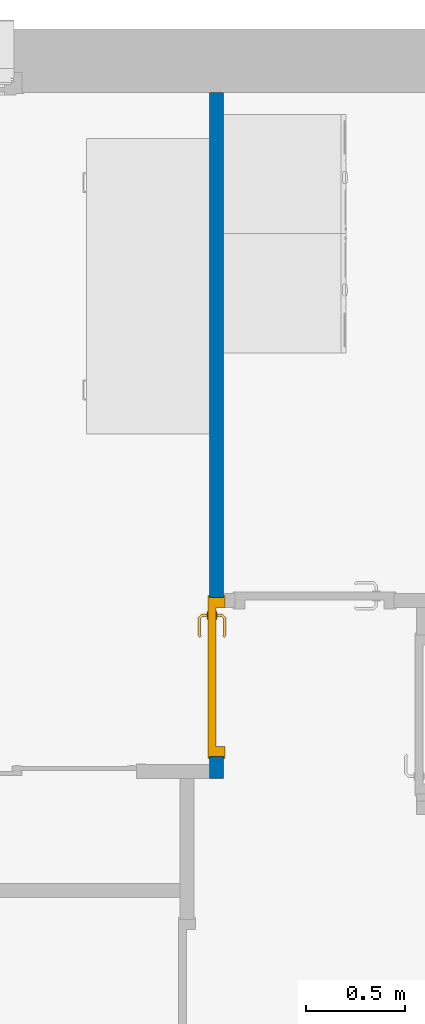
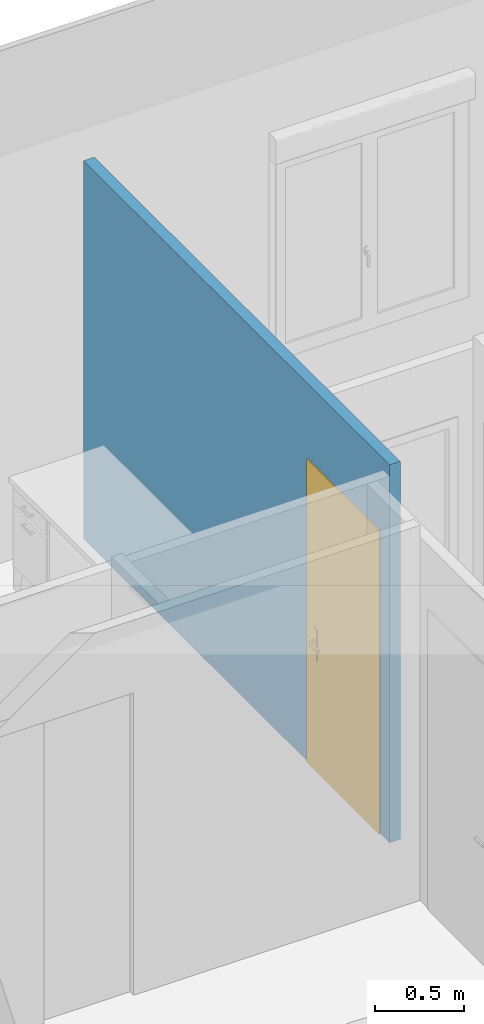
# One storey, part 33 of 50: 1 door, 1 wall, 1 opening.
"""IFC2X3 building model written with IfcOpenShell, lengths in metres."""

from ifc_helpers import new_model, entity, si_unit, converted_unit, derived_unit, direction, frame, frame_2d, origin, place, context, subcontext, project, spatial, rectangle, extrude, faceted_brep, source, transform, mapped, material, material_list, layer, layer_set, layer_usage, type_object, type_shapes, element, fill, save


model = new_model("IFC2X3")

# Units and contexts
model_context = context("Model", 3, precision=1e-05, world=origin(), true_north=direction((6.12303176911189e-17, 1.0)))
context_of_model = context(None, 3, precision=1e-05, world=origin(), true_north=direction((6.12303176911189e-17, 1.0)))
body_context = subcontext(model_context, "Body", "Model", "MODEL_VIEW")
ifc_project = project(units=[si_unit("LENGTHUNIT", "METRE"), si_unit("AREAUNIT", "SQUARE_METRE"), si_unit("VOLUMEUNIT", "CUBIC_METRE"), converted_unit("PLANEANGLEUNIT", "DEGREE", entity("IfcRatioMeasure", 0.0174532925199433), si_unit("PLANEANGLEUNIT", "RADIAN"), dimensions=[0, 0, 0, 0, 0, 0, 0]), si_unit("MASSUNIT", "GRAM", prefix="KILO"), si_unit("TIMEUNIT", "SECOND"), si_unit("FREQUENCYUNIT", "HERTZ"), si_unit("THERMODYNAMICTEMPERATUREUNIT", "DEGREE_CELSIUS"), derived_unit("THERMALTRANSMITTANCEUNIT", [(si_unit("MASSUNIT", "GRAM", prefix="KILO"), 1), (si_unit("THERMODYNAMICTEMPERATUREUNIT", "KELVIN"), -1), (si_unit("TIMEUNIT", "SECOND"), -3)]), derived_unit("VOLUMETRICFLOWRATEUNIT", [(si_unit("LENGTHUNIT", "METRE"), 3), (si_unit("TIMEUNIT", "SECOND"), -1)]), si_unit("ELECTRICCURRENTUNIT", "AMPERE"), si_unit("ELECTRICVOLTAGEUNIT", "VOLT"), si_unit("POWERUNIT", "WATT"), si_unit("FORCEUNIT", "NEWTON", prefix="KILO"), si_unit("ILLUMINANCEUNIT", "LUX"), si_unit("LUMINOUSFLUXUNIT", "LUMEN"), si_unit("LUMINOUSINTENSITYUNIT", "CANDELA"), si_unit("PRESSUREUNIT", "PASCAL")], contexts=[model_context, context_of_model])

# Site, building, storey
site_placement = place(None, origin())
site = spatial("IfcSite", under=ifc_project, at=site_placement, Name="Surface", CompositionType="ELEMENT")
building_placement = place(site_placement, origin())
building = spatial("IfcBuilding", under=site, at=building_placement, CompositionType="ELEMENT")
storey_placement = place(building_placement, frame((0.0, 0.0, 2.82)))
storey = spatial("IfcBuildingStorey", under=building, at=storey_placement, Name="ETAGE", CompositionType="ELEMENT", Elevation=2.82)

# Wall, opening, door
ifc_material_1 = material(Name="Peinture - Blanc")
ifc_layer = layer(ifc_material_1, 0.07)
ifc_layer_set = layer_set([ifc_layer], Name="Mur de base:Int.  Platre 70 mm en blanc")
ifc_layer_usage = layer_usage(ifc_layer_set, "AXIS2", "POSITIVE", -0.035)
wall_type = type_object("IfcWallType", Name="Mur de base:Int.  Platre 70 mm en blanc", PredefinedType="STANDARD", material=ifc_layer_set)
wall_placement = place(storey_placement, frame((79.9439023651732, 92.1475239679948, 0.0), z_axis=(0.0, 0.0, 1.0), x_axis=(0.0, -1.0, 0.0)))
wall = element("IfcWallStandardCase", 1, at=wall_placement, inside=storey, type_object=wall_type, material=ifc_layer_usage, Name="Mur de base:Int.  Platre 70 mm en blanc", ObjectType="Mur de base:Int.  Platre 70 mm en blanc", context=body_context, shape_type="SweptSolid", body=[
    extrude(rectangle(XDim=3.45000000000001, YDim=0.0699999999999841, at=frame_2d((1.72500000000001, 0.0), x_axis=(-1.0, 0.0))), origin(), (0.0, 0.0, 1.0), 2.6),
])
opening_placement = place(wall_placement, frame((3.34000000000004, 0.035, 0.0)))
opening = element("IfcOpeningElement", 2, at=opening_placement, cuts=wall, Name="FR_Simple (R):73 x 204 - (70):1", ObjectType="Opening", context=body_context, shape_type="SweptSolid", body=[
    extrude(rectangle(XDim=2.075, YDim=0.799999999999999, at=frame_2d((1.0375, 0.400000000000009), x_axis=(1.0, 0.0))), frame((0.0, 0.0, 0.0), z_axis=(0.0, -1.0, 0.0), x_axis=(0.0, 0.0, 1.0)), (0.0, 0.0, 1.0), 0.07),
])
ifc_material_2 = material(Name="Poignée Porte")
ifc_material_3 = material(Name="Dormants Portes")
ifc_material_4 = material(Name="Panneaux Portes")
ifc_material_list_1 = material_list([ifc_material_2, ifc_material_3, ifc_material_4])
ifc_material_list_2 = material_list([ifc_material_2, ifc_material_3, ifc_material_4])
door_style = type_object("IfcDoorStyle", Name="73 x 204 - (70)", ConstructionType="NOTDEFINED", OperationType="SINGLE_SWING_LEFT", ParameterTakesPrecedence=False, Sizeable=False, material=ifc_material_list_2)
shared_shape = source(origin(), body_context, "Body", "Brep", [
    faceted_brep([(0.100352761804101, -0.0130000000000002, 0.766003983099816), (0.11, -0.0130000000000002, 0.770000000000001), (0.11, -0.0130000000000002, 0.980000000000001), (0.100352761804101, -0.0130000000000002, 0.983996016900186), (0.0900000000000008, -0.0130000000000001, 0.985358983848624), (0.0796472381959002, -0.0130000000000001, 0.983996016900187), (0.0700000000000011, -0.0130000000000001, 0.980000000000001), (0.0700000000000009, -0.0130000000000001, 0.770000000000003), (0.0796472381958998, -0.0130000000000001, 0.766003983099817), (0.0900000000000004, -0.0130000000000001, 0.764641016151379), (0.100352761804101, -0.00800000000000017, 0.983996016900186), (0.11, -0.00800000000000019, 0.980000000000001), (0.11, -0.00800000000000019, 0.770000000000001), (0.100352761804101, -0.00800000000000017, 0.766003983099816), (0.0900000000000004, -0.00800000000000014, 0.764641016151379), (0.0796472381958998, -0.0080000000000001, 0.766003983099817), (0.0700000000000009, -0.00800000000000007, 0.770000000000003), (0.0700000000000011, -0.00800000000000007, 0.980000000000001), (0.0796472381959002, -0.0080000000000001, 0.983996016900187), (0.0900000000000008, -0.00800000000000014, 0.985358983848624)], [[[0, 1, 2, 3, 4, 5, 6, 7, 8, 9]], [[10, 11, 12, 13, 14, 15, 16, 17, 18, 19]], [[16, 15, 8, 7]], [[8, 15, 14, 9]], [[14, 13, 0, 9]], [[13, 12, 1, 0]], [[2, 1, 12, 11]], [[11, 10, 3, 2]], [[3, 10, 19, 4]], [[19, 18, 5, 4]], [[18, 17, 6, 5]], [[7, 6, 17, 16]]]),
    faceted_brep([(0.100352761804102, 0.0319999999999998, 0.766003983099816), (0.110000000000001, 0.0319999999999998, 0.770000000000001), (0.11, 0.0319999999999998, 0.980000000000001), (0.100352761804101, 0.0319999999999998, 0.983996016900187), (0.0900000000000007, 0.0319999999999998, 0.985358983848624), (0.0796472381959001, 0.0319999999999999, 0.983996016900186), (0.0700000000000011, 0.0319999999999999, 0.980000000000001), (0.0700000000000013, 0.0319999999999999, 0.770000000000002), (0.0796472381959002, 0.0319999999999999, 0.766003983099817), (0.0900000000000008, 0.0319999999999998, 0.764641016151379), (0.100352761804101, 0.0369999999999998, 0.983996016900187), (0.11, 0.0369999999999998, 0.980000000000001), (0.110000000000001, 0.0369999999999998, 0.770000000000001), (0.100352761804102, 0.0369999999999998, 0.766003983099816), (0.0900000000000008, 0.0369999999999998, 0.764641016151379), (0.0796472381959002, 0.0369999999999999, 0.766003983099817), (0.0700000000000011, 0.0369999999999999, 0.770000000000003), (0.0700000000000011, 0.0369999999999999, 0.980000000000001), (0.0796472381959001, 0.0369999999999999, 0.983996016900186), (0.0900000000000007, 0.0369999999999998, 0.985358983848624)], [[[0, 1, 2, 3, 4, 5, 6, 7, 8, 9]], [[10, 11, 12, 13, 14, 15, 16, 17, 18, 19]], [[11, 10, 3, 2]], [[3, 10, 19, 4]], [[19, 18, 5, 4]], [[18, 17, 6, 5]], [[7, 6, 17, 16]], [[16, 15, 8, 7]], [[8, 15, 14, 9]], [[14, 13, 0, 9]], [[13, 12, 1, 0]], [[2, 1, 12, 11]]]),
    faceted_brep([(0.0879747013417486, -0.0130000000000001, 0.907780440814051), (0.0920252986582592, -0.0130000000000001, 0.907780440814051), (0.0960000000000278, -0.0130000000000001, 0.906999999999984), (0.0960000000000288, -0.0130000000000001, 0.893000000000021), (0.0920252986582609, -0.0130000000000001, 0.89221955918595), (0.0879747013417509, -0.0130000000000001, 0.892219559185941), (0.0839999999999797, -0.0130000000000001, 0.892999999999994), (0.0839999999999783, -0.0130000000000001, 0.90699999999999), (0.083999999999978, -0.0406509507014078, 0.906999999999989), (0.0879747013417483, -0.0390045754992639, 0.907780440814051), (0.104023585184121, -0.0550534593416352, 0.907780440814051), (0.105701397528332, -0.0510028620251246, 0.907780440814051), (0.0920252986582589, -0.0373267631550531, 0.907780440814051), (0.198521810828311, -0.0473891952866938, 0.90778044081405), (0.195657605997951, -0.0445249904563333, 0.90778044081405), (0.18917973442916, -0.0510028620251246, 0.90778044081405), (0.190857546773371, -0.0550534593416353, 0.90778044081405), (0.0960000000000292, -0.0356803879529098, 0.90699999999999), (0.0960000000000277, -0.0356803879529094, 0.893000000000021), (0.0920252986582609, -0.0373267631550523, 0.89221955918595), (0.105701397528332, -0.0510028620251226, 0.89221955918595), (0.104023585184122, -0.0550534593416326, 0.89221955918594), (0.0879747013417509, -0.0390045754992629, 0.89221955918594), (0.195657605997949, -0.044524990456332, 0.89221955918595), (0.19852181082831, -0.0473891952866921, 0.89221955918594), (0.19085754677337, -0.0550534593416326, 0.89221955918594), (0.18917973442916, -0.0510028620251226, 0.89221955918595), (0.0839999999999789, -0.0406509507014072, 0.892999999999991), (0.102377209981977, -0.0590281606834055, 0.906999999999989), (0.107347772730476, -0.0470281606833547, 0.90699999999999), (0.107347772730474, -0.0470281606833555, 0.893000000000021), (0.102377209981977, -0.0590281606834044, 0.892999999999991), (0.142307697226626, -0.0590281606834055, 0.906999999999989), (0.147440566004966, -0.053182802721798, 0.907878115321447), (0.192503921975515, -0.0590281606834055, 0.906999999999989), (0.147440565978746, -0.0470281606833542, 0.90699999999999), (0.187533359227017, -0.0470281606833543, 0.906999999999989), (0.187533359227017, -0.0470281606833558, 0.89300000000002), (0.147440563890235, -0.0470281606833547, 0.893000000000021), (0.147440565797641, -0.0531828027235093, 0.892121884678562), (0.192503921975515, -0.0590281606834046, 0.892999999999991), (0.152573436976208, -0.0590281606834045, 0.892999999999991), (0.192847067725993, -0.0417144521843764, 0.906999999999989), (0.201332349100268, -0.0501997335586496, 0.906999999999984), (0.201332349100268, -0.05019973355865, 0.892999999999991), (0.192847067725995, -0.0417144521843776, 0.893000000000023)], [[[0, 1, 2, 3, 4, 5, 6, 7]], [[8, 9, 0, 7]], [[9, 10, 11, 12, 1, 0]], [[13, 14, 15, 16]], [[12, 17, 2, 1]], [[3, 2, 17, 18]], [[18, 19, 4, 3]], [[19, 20, 21, 22, 5, 4]], [[23, 24, 25, 26]], [[22, 27, 6, 5]], [[7, 6, 27, 8]], [[28, 10, 9, 8]], [[11, 29, 17, 12]], [[18, 17, 29, 30]], [[30, 20, 19, 18]], [[21, 31, 27, 22]], [[8, 27, 31, 28]], [[32, 33, 10]], [[33, 32, 16]], [[10, 28, 32]], [[34, 16, 32]], [[33, 35, 11]], [[11, 10, 33]], [[15, 35, 33]], [[29, 11, 35]], [[35, 15, 36]], [[15, 33, 16]], [[30, 29, 35, 36, 37, 38]], [[20, 38, 39]], [[25, 40, 41]], [[31, 21, 41]], [[41, 21, 39]], [[39, 38, 26]], [[26, 25, 39]], [[38, 20, 30]], [[37, 26, 38]], [[20, 39, 21]], [[41, 39, 25]], [[28, 31, 41, 40, 34, 32]], [[42, 14, 13, 43, 44, 24, 23, 45]], [[43, 13, 16, 34]], [[14, 42, 36, 15]], [[37, 36, 42, 45]], [[45, 23, 26, 37]], [[24, 44, 40, 25]], [[34, 40, 44, 43]]]),
    faceted_brep([(0.0879747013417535, 0.0369999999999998, 0.892219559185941), (0.092025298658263, 0.0369999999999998, 0.892219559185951), (0.0960000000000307, 0.0369999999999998, 0.893000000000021), (0.096000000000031, 0.0369999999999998, 0.90699999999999), (0.0920252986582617, 0.0369999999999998, 0.907780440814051), (0.0879747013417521, 0.0369999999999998, 0.907780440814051), (0.0839999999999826, 0.0369999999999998, 0.90699999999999), (0.0839999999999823, 0.0369999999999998, 0.892999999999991), (0.0960000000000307, 0.0594852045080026, 0.893000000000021), (0.0960000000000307, 0.0594852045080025, 0.90699999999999), (0.092025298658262, 0.0611315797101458, 0.907780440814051), (0.105838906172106, 0.0749451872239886, 0.907780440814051), (0.104161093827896, 0.0789957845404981, 0.907780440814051), (0.0879747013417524, 0.0628093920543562, 0.907780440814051), (0.195684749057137, 0.0684673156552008, 0.907780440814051), (0.198548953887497, 0.071331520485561, 0.907780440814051), (0.190884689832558, 0.0789957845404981, 0.907780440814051), (0.189206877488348, 0.0749451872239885, 0.907780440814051), (0.0839999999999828, 0.0644557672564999, 0.90699999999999), (0.0839999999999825, 0.0644557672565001, 0.892999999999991), (0.0879747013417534, 0.0628093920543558, 0.892219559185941), (0.104161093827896, 0.0789957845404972, 0.892219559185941), (0.105838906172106, 0.0749451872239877, 0.892219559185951), (0.0920252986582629, 0.0611315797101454, 0.892219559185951), (0.198548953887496, 0.07133152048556, 0.89221955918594), (0.195684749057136, 0.0684673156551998, 0.89221955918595), (0.189206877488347, 0.0749451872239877, 0.89221955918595), (0.190884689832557, 0.0789957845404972, 0.89221955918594), (0.107485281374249, 0.0709704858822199, 0.893000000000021), (0.107485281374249, 0.0709704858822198, 0.90699999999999), (0.102514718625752, 0.0829704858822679, 0.90699999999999), (0.102514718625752, 0.0829704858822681, 0.892999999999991), (0.147522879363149, 0.0709704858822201, 0.89300000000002), (0.187560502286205, 0.0709704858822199, 0.89300000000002), (0.187560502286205, 0.0709704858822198, 0.90699999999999), (0.147522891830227, 0.0709704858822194, 0.90699999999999), (0.147522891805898, 0.0771249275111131, 0.907878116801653), (0.192531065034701, 0.0829704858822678, 0.90699999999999), (0.152600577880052, 0.0829704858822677, 0.90699999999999), (0.192531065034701, 0.082970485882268, 0.892999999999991), (0.142445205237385, 0.0829704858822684, 0.892999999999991), (0.147522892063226, 0.0771249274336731, 0.892121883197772), (0.192874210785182, 0.0656567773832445, 0.89300000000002), (0.201359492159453, 0.0741420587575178, 0.892999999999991), (0.201359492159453, 0.0741420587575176, 0.90699999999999), (0.192874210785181, 0.0656567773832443, 0.90699999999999)], [[[0, 1, 2, 3, 4, 5, 6, 7]], [[3, 2, 8, 9]], [[9, 10, 4, 3]], [[10, 11, 12, 13, 5, 4]], [[14, 15, 16, 17]], [[13, 18, 6, 5]], [[7, 6, 18, 19]], [[19, 20, 0, 7]], [[20, 21, 22, 23, 1, 0]], [[24, 25, 26, 27]], [[23, 8, 2, 1]], [[9, 8, 28, 29]], [[29, 11, 10, 9]], [[12, 30, 18, 13]], [[19, 18, 30, 31]], [[31, 21, 20, 19]], [[22, 28, 8, 23]], [[28, 32, 33, 34, 35, 29]], [[11, 35, 36]], [[16, 37, 38]], [[30, 12, 38]], [[38, 12, 36]], [[36, 35, 17]], [[17, 16, 36]], [[35, 11, 29]], [[34, 17, 35]], [[11, 36, 12]], [[38, 36, 16]], [[31, 30, 38, 37, 39, 40]], [[40, 41, 21]], [[41, 40, 27]], [[21, 31, 40]], [[39, 27, 40]], [[41, 32, 22]], [[22, 21, 41]], [[26, 32, 41]], [[28, 22, 32]], [[32, 26, 33]], [[26, 41, 27]], [[42, 25, 24, 43, 44, 15, 14, 45]], [[34, 33, 42, 45]], [[45, 14, 17, 34]], [[15, 44, 37, 16]], [[39, 37, 44, 43]], [[43, 24, 27, 39]], [[25, 42, 33, 26]]]),
    faceted_brep([(0.0, 0.0, 0.0), (0.0, 0.0700000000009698, 0.0), (-0.00999999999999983, 0.0700000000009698, 0.0), (-0.00999999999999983, 0.0780000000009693, 0.0), (0.0499999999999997, 0.0780000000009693, 0.0), (0.0499999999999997, 0.032, 0.0), (0.0350000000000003, 0.032, 0.0), (0.0350000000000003, -0.00799999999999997, 0.0), (-0.00999999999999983, -0.00799999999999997, 0.0), (-0.00999999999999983, 0.0, 0.0), (0.0, 0.0, 2.075), (0.0, 0.0700000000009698, 2.075), (0.799999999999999, 0.0700000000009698, 2.075), (0.799999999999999, 0.0700000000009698, 0.0), (0.809999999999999, 0.0700000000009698, 0.0), (0.809999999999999, 0.0700000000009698, 2.085), (-0.00999999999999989, 0.0700000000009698, 2.085), (-0.00999999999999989, 0.0780000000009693, 2.085), (0.809999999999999, 0.0780000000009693, 2.085), (0.809999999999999, 0.0780000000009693, 0.0), (0.75, 0.0780000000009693, 0.0), (0.75, 0.0780000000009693, 2.025), (0.0499999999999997, 0.0780000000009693, 2.025), (0.0499999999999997, 0.032, 2.025), (0.75, 0.032, 2.025), (0.75, 0.032, 0.0), (0.764999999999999, 0.032, 0.0), (0.764999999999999, 0.032, 2.04), (0.0350000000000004, 0.032, 2.04), (0.0350000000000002, -0.00799999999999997, 2.04), (0.764999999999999, -0.00799999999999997, 2.04), (0.764999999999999, -0.00799999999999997, 0.0), (0.809999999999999, -0.00799999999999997, 0.0), (0.809999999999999, -0.00799999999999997, 2.085), (-0.00999999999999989, -0.00799999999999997, 2.085), (-0.00999999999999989, 0.0, 2.085), (0.809999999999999, 0.0, 2.085), (0.809999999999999, 0.0, 0.0), (0.799999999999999, 0.0, 0.0), (0.799999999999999, 0.0, 2.075)], [[[0, 1, 2, 3, 4, 5, 6, 7, 8, 9]], [[1, 0, 10, 11]], [[2, 1, 11, 12, 13, 14, 15, 16]], [[3, 2, 16, 17]], [[4, 3, 17, 18, 19, 20, 21, 22]], [[5, 4, 22, 23]], [[6, 5, 23, 24, 25, 26, 27, 28]], [[7, 6, 28, 29]], [[8, 7, 29, 30, 31, 32, 33, 34]], [[9, 8, 34, 35]], [[0, 9, 35, 36, 37, 38, 39, 10]], [[11, 10, 39, 12]], [[17, 16, 15, 18]], [[23, 22, 21, 24]], [[29, 28, 27, 30]], [[35, 34, 33, 36]], [[38, 37, 32, 31, 26, 25, 20, 19, 14, 13]], [[12, 39, 38, 13]], [[18, 15, 14, 19]], [[24, 21, 20, 25]], [[30, 27, 26, 31]], [[36, 33, 32, 37]]]),
    faceted_brep([(0.0350000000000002, -0.00799999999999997, 2.04), (0.0350000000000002, -0.00799999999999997, 0.0), (0.764999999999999, -0.00799999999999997, 0.0), (0.764999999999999, -0.00799999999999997, 2.04), (0.0350000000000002, 0.032, 2.04), (0.764999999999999, 0.032, 2.04), (0.764999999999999, 0.032, 0.0), (0.0350000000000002, 0.032, 0.0)], [[[0, 1, 2, 3]], [[4, 5, 6, 7]], [[1, 0, 4, 7]], [[2, 1, 7, 6]], [[3, 2, 6, 5]], [[0, 3, 5, 4]]]),
])
type_shapes(door_style, [shared_shape])
door_placement = place(opening_placement, frame((-0.799999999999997, -0.0699999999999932, 0.0)))
door = element("IfcDoor", 3, at=door_placement, inside=storey, type_object=door_style, material=ifc_material_list_1, Name="FR_Simple (R):73 x 204 - (70)", ObjectType="73 x 204 - (70)", OverallHeight=2.075, OverallWidth=0.800000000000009, context=body_context, shape_type="MappedRepresentation", body=[
    mapped(shared_shape, transform((0.0, 0.0, 0.0), scale=1.0)),
])
fill(opening, door)

save(model, "model.ifc")
